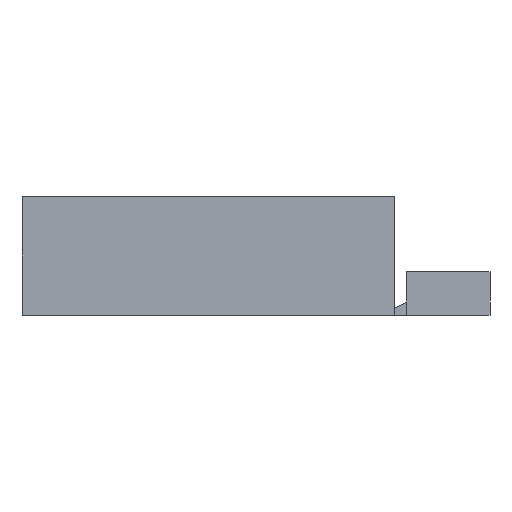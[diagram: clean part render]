
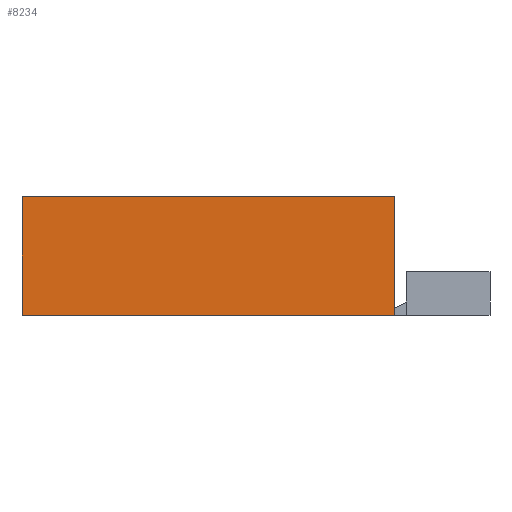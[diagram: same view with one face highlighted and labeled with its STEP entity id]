
A CAD part, left-side view. The second image highlights one B-rep face of the part: STEP entity #8234.
In plain terms, the highlighted planar face has unit normal (-1, 0, 0).
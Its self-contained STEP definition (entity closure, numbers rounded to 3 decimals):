
#7139 = FACE_OUTER_BOUND ( 'NONE', #8231, .T. ) ;
#7167 = DIRECTION ( 'NONE',  ( 0., 1., 0. ) ) ;
#7168 = DIRECTION ( 'NONE',  ( 1., 0., 0. ) ) ;
#7169 = CARTESIAN_POINT ( 'NONE',  ( -18.5, 26.9, 13.6 ) ) ;
#7170 = AXIS2_PLACEMENT_3D ( 'NONE', #7169, #7168, #7167 ) ;
#7173 = PLANE ( 'NONE',  #7170 ) ;
#7209 = CARTESIAN_POINT ( 'NONE',  ( -18.5, 26.9, 0. ) ) ;
#7210 = LINE ( 'NONE', #7263, #7262 ) ;
#7219 = CARTESIAN_POINT ( 'NONE',  ( -18.5, -15.9, 0. ) ) ;
#7220 = CARTESIAN_POINT ( 'NONE',  ( -18.5, -15.9, 13.6 ) ) ;
#7221 = DIRECTION ( 'NONE',  ( 0., -1., 0. ) ) ;
#7222 = VECTOR ( 'NONE', #7221, 1000. ) ;
#7223 = CARTESIAN_POINT ( 'NONE',  ( -18.5, 26.9, 0. ) ) ;
#7224 = LINE ( 'NONE', #7223, #7222 ) ;
#7261 = DIRECTION ( 'NONE',  ( 0., -1., 0. ) ) ;
#7262 = VECTOR ( 'NONE', #7261, 1000. ) ;
#7263 = CARTESIAN_POINT ( 'NONE',  ( -18.5, 26.9, 13.6 ) ) ;
#7335 = DIRECTION ( 'NONE',  ( 0., 0., -1. ) ) ;
#7336 = VECTOR ( 'NONE', #7335, 1000. ) ;
#7337 = CARTESIAN_POINT ( 'NONE',  ( -18.5, 26.9, 13.6 ) ) ;
#7338 = LINE ( 'NONE', #7337, #7336 ) ;
#7375 = DIRECTION ( 'NONE',  ( 0., 0., -1. ) ) ;
#7376 = VECTOR ( 'NONE', #7375, 1000. ) ;
#7377 = CARTESIAN_POINT ( 'NONE',  ( -18.5, -15.9, 13.6 ) ) ;
#7382 = LINE ( 'NONE', #7377, #7376 ) ;
#7400 = CARTESIAN_POINT ( 'NONE',  ( -18.5, 26.9, 13.6 ) ) ;
#8231 = EDGE_LOOP ( 'NONE', ( #8240, #8243, #8268, #8272 ) ) ;
#8234 = ADVANCED_FACE ( 'NONE', ( #7139 ), #7173, .F. ) ;
#8240 = ORIENTED_EDGE ( 'NONE', *, *, #8253, .T. ) ;
#8243 = ORIENTED_EDGE ( 'NONE', *, *, #8294, .F. ) ;
#8253 = EDGE_CURVE ( 'NONE', #8265, #8258, #7224, .T. ) ;
#8256 = VERTEX_POINT ( 'NONE', #7220 ) ;
#8258 = VERTEX_POINT ( 'NONE', #7219 ) ;
#8265 = VERTEX_POINT ( 'NONE', #7209 ) ;
#8266 = EDGE_CURVE ( 'NONE', #8291, #8256, #7210, .T. ) ;
#8268 = ORIENTED_EDGE ( 'NONE', *, *, #8266, .F. ) ;
#8272 = ORIENTED_EDGE ( 'NONE', *, *, #8283, .T. ) ;
#8283 = EDGE_CURVE ( 'NONE', #8291, #8265, #7338, .T. ) ;
#8291 = VERTEX_POINT ( 'NONE', #7400 ) ;
#8294 = EDGE_CURVE ( 'NONE', #8256, #8258, #7382, .T. ) ;
